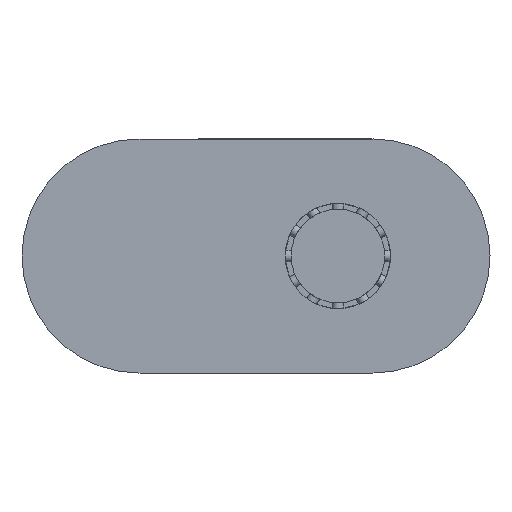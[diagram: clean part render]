
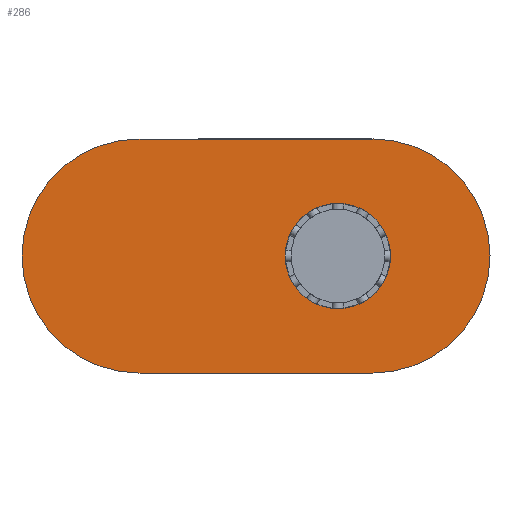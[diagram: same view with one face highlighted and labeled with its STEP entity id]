
A CAD part, left-side view. The second image highlights one B-rep face of the part: STEP entity #286.
In plain terms, the highlighted planar face has unit normal (-1, 0, 0).
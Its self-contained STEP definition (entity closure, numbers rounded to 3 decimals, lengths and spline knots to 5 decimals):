
#22 = VERTEX_POINT('',#23);
#23 = CARTESIAN_POINT('',(0.,-0.015,-0.05));
#32 = CYLINDRICAL_SURFACE('',#33,0.05);
#33 = AXIS2_PLACEMENT_3D('',#34,#35,#36);
#34 = CARTESIAN_POINT('',(0.,-0.015,
    0.));
#35 = DIRECTION('',(-1.,0.,0.));
#36 = DIRECTION('',(0.,1.,0.));
#44 = PLANE('',#45);
#45 = AXIS2_PLACEMENT_3D('',#46,#47,#48);
#46 = CARTESIAN_POINT('',(0.,-0.015,-0.05));
#47 = DIRECTION('',(0.,0.,1.));
#48 = DIRECTION('',(0.,1.,0.));
#86 = VERTEX_POINT('',#87);
#87 = CARTESIAN_POINT('',(0.,-0.015,
    0.05));
#101 = PLANE('',#102);
#102 = AXIS2_PLACEMENT_3D('',#103,#104,#105);
#103 = CARTESIAN_POINT('',(0.,-0.015,
    0.05));
#104 = DIRECTION('',(0.,0.,1.));
#105 = DIRECTION('',(0.,1.,0.));
#113 = EDGE_CURVE('',#22,#86,#114,.T.);
#114 = SURFACE_CURVE('',#115,(#120,#127),.PCURVE_S1.);
#115 = CIRCLE('',#116,0.05);
#116 = AXIS2_PLACEMENT_3D('',#117,#118,#119);
#117 = CARTESIAN_POINT('',(0.,-0.015,
    0.));
#118 = DIRECTION('',(-1.,0.,0.));
#119 = DIRECTION('',(0.,1.,0.));
#120 = PCURVE('',#32,#121);
#121 = DEFINITIONAL_REPRESENTATION('',(#122),#126);
#122 = LINE('',#123,#124);
#123 = CARTESIAN_POINT('',(0.,0.));
#124 = VECTOR('',#125,1.);
#125 = DIRECTION('',(1.,0.));
#126 = ( GEOMETRIC_REPRESENTATION_CONTEXT(2) 
PARAMETRIC_REPRESENTATION_CONTEXT() REPRESENTATION_CONTEXT('2D SPACE',''
  ) );
#127 = PCURVE('',#128,#133);
#128 = PLANE('',#129);
#129 = AXIS2_PLACEMENT_3D('',#130,#131,#132);
#130 = CARTESIAN_POINT('',(0.,0.035,
    0.));
#131 = DIRECTION('',(-1.,0.,0.));
#132 = DIRECTION('',(0.,0.,-1.));
#133 = DEFINITIONAL_REPRESENTATION('',(#134),#138);
#134 = CIRCLE('',#135,0.05);
#135 = AXIS2_PLACEMENT_2D('',#136,#137);
#136 = CARTESIAN_POINT('',(0.,0.05));
#137 = DIRECTION('',(0.,-1.));
#138 = ( GEOMETRIC_REPRESENTATION_CONTEXT(2) 
PARAMETRIC_REPRESENTATION_CONTEXT() REPRESENTATION_CONTEXT('2D SPACE',''
  ) );
#168 = VERTEX_POINT('',#169);
#169 = CARTESIAN_POINT('',(0.,0.085,
    -0.05));
#183 = CYLINDRICAL_SURFACE('',#184,0.05);
#184 = AXIS2_PLACEMENT_3D('',#185,#186,#187);
#185 = CARTESIAN_POINT('',(0.,0.085,
    0.));
#186 = DIRECTION('',(-1.,0.,0.));
#187 = DIRECTION('',(0.,1.,0.));
#195 = EDGE_CURVE('',#22,#168,#196,.T.);
#196 = SURFACE_CURVE('',#197,(#201,#208),.PCURVE_S1.);
#197 = LINE('',#198,#199);
#198 = CARTESIAN_POINT('',(0.,-0.015,-0.05));
#199 = VECTOR('',#200,0.001);
#200 = DIRECTION('',(0.,1.,0.));
#201 = PCURVE('',#44,#202);
#202 = DEFINITIONAL_REPRESENTATION('',(#203),#207);
#203 = LINE('',#204,#205);
#204 = CARTESIAN_POINT('',(0.,0.));
#205 = VECTOR('',#206,1.);
#206 = DIRECTION('',(1.,0.));
#207 = ( GEOMETRIC_REPRESENTATION_CONTEXT(2) 
PARAMETRIC_REPRESENTATION_CONTEXT() REPRESENTATION_CONTEXT('2D SPACE',''
  ) );
#208 = PCURVE('',#128,#209);
#209 = DEFINITIONAL_REPRESENTATION('',(#210),#214);
#210 = LINE('',#211,#212);
#211 = CARTESIAN_POINT('',(0.05,0.05));
#212 = VECTOR('',#213,1.);
#213 = DIRECTION('',(0.,-1.));
#214 = ( GEOMETRIC_REPRESENTATION_CONTEXT(2) 
PARAMETRIC_REPRESENTATION_CONTEXT() REPRESENTATION_CONTEXT('2D SPACE',''
  ) );
#244 = VERTEX_POINT('',#245);
#245 = CARTESIAN_POINT('',(0.,0.085,
    0.05));
#266 = EDGE_CURVE('',#86,#244,#267,.T.);
#267 = SURFACE_CURVE('',#268,(#272,#279),.PCURVE_S1.);
#268 = LINE('',#269,#270);
#269 = CARTESIAN_POINT('',(0.,-0.015,
    0.05));
#270 = VECTOR('',#271,0.001);
#271 = DIRECTION('',(0.,1.,0.));
#272 = PCURVE('',#101,#273);
#273 = DEFINITIONAL_REPRESENTATION('',(#274),#278);
#274 = LINE('',#275,#276);
#275 = CARTESIAN_POINT('',(0.,0.));
#276 = VECTOR('',#277,1.);
#277 = DIRECTION('',(1.,0.));
#278 = ( GEOMETRIC_REPRESENTATION_CONTEXT(2) 
PARAMETRIC_REPRESENTATION_CONTEXT() REPRESENTATION_CONTEXT('2D SPACE',''
  ) );
#279 = PCURVE('',#128,#280);
#280 = DEFINITIONAL_REPRESENTATION('',(#281),#285);
#281 = LINE('',#282,#283);
#282 = CARTESIAN_POINT('',(-0.05,0.05));
#283 = VECTOR('',#284,1.);
#284 = DIRECTION('',(0.,-1.));
#285 = ( GEOMETRIC_REPRESENTATION_CONTEXT(2) 
PARAMETRIC_REPRESENTATION_CONTEXT() REPRESENTATION_CONTEXT('2D SPACE',''
  ) );
#286 = ADVANCED_FACE('',(#287,#314),#128,.T.);
#287 = FACE_BOUND('',#288,.T.);
#288 = EDGE_LOOP('',(#289,#290,#291,#313));
#289 = ORIENTED_EDGE('',*,*,#113,.T.);
#290 = ORIENTED_EDGE('',*,*,#266,.T.);
#291 = ORIENTED_EDGE('',*,*,#292,.T.);
#292 = EDGE_CURVE('',#244,#168,#293,.T.);
#293 = SURFACE_CURVE('',#294,(#299,#306),.PCURVE_S1.);
#294 = CIRCLE('',#295,0.05);
#295 = AXIS2_PLACEMENT_3D('',#296,#297,#298);
#296 = CARTESIAN_POINT('',(0.,0.085,
    0.));
#297 = DIRECTION('',(-1.,0.,0.));
#298 = DIRECTION('',(0.,1.,0.));
#299 = PCURVE('',#128,#300);
#300 = DEFINITIONAL_REPRESENTATION('',(#301),#305);
#301 = CIRCLE('',#302,0.05);
#302 = AXIS2_PLACEMENT_2D('',#303,#304);
#303 = CARTESIAN_POINT('',(0.,-0.05));
#304 = DIRECTION('',(0.,-1.));
#305 = ( GEOMETRIC_REPRESENTATION_CONTEXT(2) 
PARAMETRIC_REPRESENTATION_CONTEXT() REPRESENTATION_CONTEXT('2D SPACE',''
  ) );
#306 = PCURVE('',#183,#307);
#307 = DEFINITIONAL_REPRESENTATION('',(#308),#312);
#308 = LINE('',#309,#310);
#309 = CARTESIAN_POINT('',(0.,0.));
#310 = VECTOR('',#311,1.);
#311 = DIRECTION('',(1.,0.));
#312 = ( GEOMETRIC_REPRESENTATION_CONTEXT(2) 
PARAMETRIC_REPRESENTATION_CONTEXT() REPRESENTATION_CONTEXT('2D SPACE',''
  ) );
#313 = ORIENTED_EDGE('',*,*,#195,.F.);
#314 = FACE_BOUND('',#315,.T.);
#315 = EDGE_LOOP('',(#316));
#316 = ORIENTED_EDGE('',*,*,#317,.T.);
#317 = EDGE_CURVE('',#318,#318,#320,.T.);
#318 = VERTEX_POINT('',#319);
#319 = CARTESIAN_POINT('',(0.,0.0225,
    0.));
#320 = SURFACE_CURVE('',#321,(#326,#337),.PCURVE_S1.);
#321 = CIRCLE('',#322,0.0225);
#322 = AXIS2_PLACEMENT_3D('',#323,#324,#325);
#323 = CARTESIAN_POINT('',(0.,0.,0.));
#324 = DIRECTION('',(1.,0.,0.));
#325 = DIRECTION('',(0.,1.,0.));
#326 = PCURVE('',#128,#327);
#327 = DEFINITIONAL_REPRESENTATION('',(#328),#336);
#328 = ( BOUNDED_CURVE() B_SPLINE_CURVE(2,(#329,#330,#331,#332,#333,#334
,#335),.UNSPECIFIED.,.T.,.F.) B_SPLINE_CURVE_WITH_KNOTS((1,2,2,2,2,1),(
    -2.0944,0.,2.0944,4.18879,6.28319,
8.37758),.UNSPECIFIED.) CURVE() GEOMETRIC_REPRESENTATION_ITEM() 
RATIONAL_B_SPLINE_CURVE((1.,0.5,1.,0.5,1.,0.5,1.)) REPRESENTATION_ITEM(
  '') );
#329 = CARTESIAN_POINT('',(0.,0.013));
#330 = CARTESIAN_POINT('',(-0.039,0.013));
#331 = CARTESIAN_POINT('',(-0.019,0.046));
#332 = CARTESIAN_POINT('',(0.,0.08));
#333 = CARTESIAN_POINT('',(0.019,0.046));
#334 = CARTESIAN_POINT('',(0.039,0.013));
#335 = CARTESIAN_POINT('',(0.,0.013));
#336 = ( GEOMETRIC_REPRESENTATION_CONTEXT(2) 
PARAMETRIC_REPRESENTATION_CONTEXT() REPRESENTATION_CONTEXT('2D SPACE',''
  ) );
#337 = PCURVE('',#338,#343);
#338 = CYLINDRICAL_SURFACE('',#339,0.0225);
#339 = AXIS2_PLACEMENT_3D('',#340,#341,#342);
#340 = CARTESIAN_POINT('',(0.,0.,0.));
#341 = DIRECTION('',(-1.,0.,0.));
#342 = DIRECTION('',(0.,1.,0.));
#343 = DEFINITIONAL_REPRESENTATION('',(#344),#347);
#344 = B_SPLINE_CURVE_WITH_KNOTS('',1,(#345,#346),.UNSPECIFIED.,.F.,.F.,
  (2,2),(0.,6.28319),.PIECEWISE_BEZIER_KNOTS.);
#345 = CARTESIAN_POINT('',(0.,0.));
#346 = CARTESIAN_POINT('',(-6.283,0.));
#347 = ( GEOMETRIC_REPRESENTATION_CONTEXT(2) 
PARAMETRIC_REPRESENTATION_CONTEXT() REPRESENTATION_CONTEXT('2D SPACE',''
  ) );
